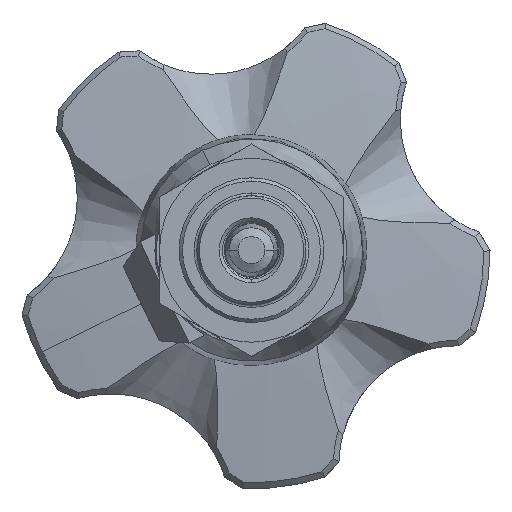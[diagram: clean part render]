
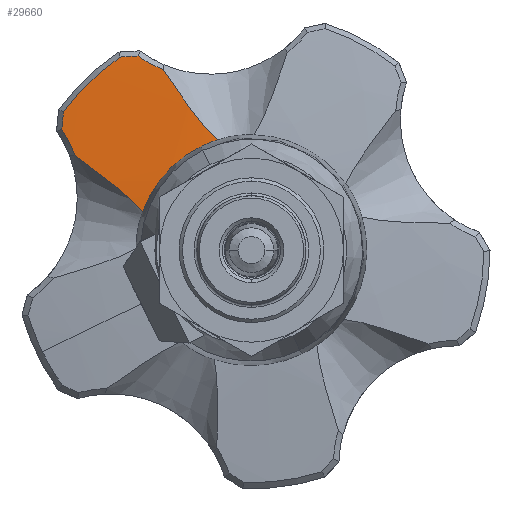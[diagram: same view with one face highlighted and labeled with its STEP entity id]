
A CAD part, front view. The second image highlights one B-rep face of the part: STEP entity #29660.
In plain terms, the highlighted spherical face has radius 215 mm.
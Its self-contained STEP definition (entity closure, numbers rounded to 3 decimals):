
#218 = CARTESIAN_POINT ( 'NONE',  ( -5., 4.667, 16.17 ) ) ;
#249 = VERTEX_POINT ( 'NONE', #28747 ) ;
#722 = CARTESIAN_POINT ( 'NONE',  ( -24.208, 5.742, 12.688 ) ) ;
#1540 = CARTESIAN_POINT ( 'NONE',  ( -7.391, 4.667, 15.227 ) ) ;
#2355 = DIRECTION ( 'NONE',  ( -0.437, 0., 0.9 ) ) ;
#2371 = CARTESIAN_POINT ( 'NONE',  ( -5.414, 4.705, 16.542 ) ) ;
#3241 = EDGE_CURVE ( 'NONE', #249, #32055, #5116, .T. ) ;
#3512 = CARTESIAN_POINT ( 'NONE',  ( -15.965, 4.667, 5.622 ) ) ;
#3637 = CARTESIAN_POINT ( 'NONE',  ( -25.956, 6.03, 13.97 ) ) ;
#3670 = AXIS2_PLACEMENT_3D ( 'NONE', #5832, #25776, #8714 ) ;
#4441 = ORIENTED_EDGE ( 'NONE', *, *, #7414, .T. ) ;
#4956 = ORIENTED_EDGE ( 'NONE', *, *, #14783, .T. ) ;
#5116 = B_SPLINE_CURVE_WITH_KNOTS ( 'NONE', 3,
 ( #3512, #20603, #9281, #29228, #12141, #32093, #15050, #35013, #17895, #722, #20736, #3637 ),
 .UNSPECIFIED., .F., .F.,
 ( 4, 2, 2, 2, 2, 4 ),
 ( 0.025, 0.027, 0.028, 0.032, 0.035, 0.038 ),
 .UNSPECIFIED. ) ;
#5721 = DIRECTION ( 'NONE',  ( 0.995, 0., -0.098 ) ) ;
#5832 = CARTESIAN_POINT ( 'NONE',  ( 0., 4.667, 0. ) ) ;
#6332 = CARTESIAN_POINT ( 'NONE',  ( -14.207, 6.169, 26.984 ) ) ;
#6874 = CARTESIAN_POINT ( 'NONE',  ( 0., 219., 0. ) ) ;
#6888 = DIRECTION ( 'NONE',  ( 0., -1., 0. ) ) ;
#7414 = EDGE_CURVE ( 'NONE', #28749, #23281, #33410, .T. ) ;
#7608 = CARTESIAN_POINT ( 'NONE',  ( -26.414, 6.169, 15.239 ) ) ;
#8560 = CIRCLE ( 'NONE', #15936, 212.975 ) ;
#8714 = DIRECTION ( 'NONE',  ( -0.437, 0., 0.9 ) ) ;
#9281 = CARTESIAN_POINT ( 'NONE',  ( -16.692, 4.745, 6.441 ) ) ;
#9400 = CARTESIAN_POINT ( 'NONE',  ( -27.573, 6.747, 20.336 ) ) ;
#9446 = CIRCLE ( 'NONE', #25744, 16.926 ) ;
#9855 = DIRECTION ( 'NONE',  ( 0.9, 0., 0.437 ) ) ;
#10373 = DIRECTION ( 'NONE',  ( 0.06, 0., -0.998 ) ) ;
#10525 = EDGE_LOOP ( 'NONE', ( #20916, #18018, #14106, #12885, #4441, #31628, #4956, #13992, #16638 ) ) ;
#10530 = CIRCLE ( 'NONE', #30462, 212.975 ) ;
#10916 = CARTESIAN_POINT ( 'NONE',  ( -10.507, 5.479, 22.905 ) ) ;
#12141 = CARTESIAN_POINT ( 'NONE',  ( -17.869, 4.877, 7.582 ) ) ;
#12885 = ORIENTED_EDGE ( 'NONE', *, *, #16666, .F. ) ;
#13595 = CIRCLE ( 'NONE', #3670, 16.926 ) ;
#13802 = CARTESIAN_POINT ( 'NONE',  ( -8.59, 5.128, 20.277 ) ) ;
#13992 = ORIENTED_EDGE ( 'NONE', *, *, #18853, .T. ) ;
#14106 = ORIENTED_EDGE ( 'NONE', *, *, #30078, .F. ) ;
#14783 = EDGE_CURVE ( 'NONE', #29997, #22351, #16154, .T. ) ;
#14837 = CARTESIAN_POINT ( 'NONE',  ( -16.646, 6.548, 28.495 ) ) ;
#15000 = VERTEX_POINT ( 'NONE', #218 ) ;
#15050 = CARTESIAN_POINT ( 'NONE',  ( -19.924, 5.127, 9.362 ) ) ;
#15936 = AXIS2_PLACEMENT_3D ( 'NONE', #27421, #10373, #30337 ) ;
#16102 = B_SPLINE_CURVE_WITH_KNOTS ( 'NONE', 3,
 ( #30747, #19406, #27975, #10916, #30869, #13802, #33785, #16677, #36659, #19523, #2371, #22407 ),
 .UNSPECIFIED., .F., .F.,
 ( 4, 2, 2, 2, 2, 4 ),
 ( 0.006, 0.009, 0.012, 0.015, 0.017, 0.019 ),
 .UNSPECIFIED. ) ;
#16154 = CIRCLE ( 'NONE', #28280, 34.261 ) ;
#16638 = ORIENTED_EDGE ( 'NONE', *, *, #21452, .T. ) ;
#16666 = EDGE_CURVE ( 'NONE', #28749, #15000, #16102, .T. ) ;
#16677 = CARTESIAN_POINT ( 'NONE',  ( -6.891, 4.878, 18.155 ) ) ;
#17895 = CARTESIAN_POINT ( 'NONE',  ( -22.478, 5.479, 11.381 ) ) ;
#18018 = ORIENTED_EDGE ( 'NONE', *, *, #32506, .F. ) ;
#18853 = EDGE_CURVE ( 'NONE', #22351, #31377, #10530, .T. ) ;
#18940 = CARTESIAN_POINT ( 'NONE',  ( -27.026, 6.339, 16.497 ) ) ;
#19406 = CARTESIAN_POINT ( 'NONE',  ( -12.354, 5.882, 25.578 ) ) ;
#19505 = DIRECTION ( 'NONE',  ( 0., -1., 0. ) ) ;
#19523 = CARTESIAN_POINT ( 'NONE',  ( -5.797, 4.746, 16.935 ) ) ;
#20197 = EDGE_CURVE ( 'NONE', #23281, #29997, #8560, .T. ) ;
#20492 = B_SPLINE_CURVE_WITH_KNOTS ( 'NONE', 3,
 ( #36062, #18940, #7608, #27504 ),
 .UNSPECIFIED., .F., .F.,
 ( 4, 4 ),
 ( 0., 1. ),
 .UNSPECIFIED. ) ;
#20603 = CARTESIAN_POINT ( 'NONE',  ( -16.314, 4.704, 6.042 ) ) ;
#20736 = CARTESIAN_POINT ( 'NONE',  ( -25.08, 5.882, 13.332 ) ) ;
#20916 = ORIENTED_EDGE ( 'NONE', *, *, #3241, .F. ) ;
#21452 = EDGE_CURVE ( 'NONE', #31377, #32055, #20492, .T. ) ;
#21824 = CARTESIAN_POINT ( 'NONE',  ( -12.956, 6.03, 26.476 ) ) ;
#22351 = VERTEX_POINT ( 'NONE', #9400 ) ;
#22407 = CARTESIAN_POINT ( 'NONE',  ( -5., 4.667, 16.17 ) ) ;
#22810 = CARTESIAN_POINT ( 'NONE',  ( -29.298, 219., 2.898 ) ) ;
#23281 = VERTEX_POINT ( 'NONE', #14837 ) ;
#23423 = CARTESIAN_POINT ( 'NONE',  ( -15.44, 6.339, 27.643 ) ) ;
#23961 = CARTESIAN_POINT ( 'NONE',  ( 0., 4.667, 0. ) ) ;
#25662 = DIRECTION ( 'NONE',  ( -0.098, 0., -0.995 ) ) ;
#25744 = AXIS2_PLACEMENT_3D ( 'NONE', #23961, #6888, #26813 ) ;
#25776 = DIRECTION ( 'NONE',  ( 0., -1., 0. ) ) ;
#26067 = VERTEX_POINT ( 'NONE', #1540 ) ;
#26262 = CARTESIAN_POINT ( 'NONE',  ( -12.956, 6.03, 26.476 ) ) ;
#26813 = DIRECTION ( 'NONE',  ( -0.437, 0., 0.9 ) ) ;
#26905 = DIRECTION ( 'NONE',  ( -0.437, 0., 0.9 ) ) ;
#27421 = CARTESIAN_POINT ( 'NONE',  ( -1.763, 219., 29.388 ) ) ;
#27504 = CARTESIAN_POINT ( 'NONE',  ( -25.956, 6.03, 13.97 ) ) ;
#27975 = CARTESIAN_POINT ( 'NONE',  ( -11.744, 5.742, 24.683 ) ) ;
#28280 = AXIS2_PLACEMENT_3D ( 'NONE', #36644, #19505, #2355 ) ;
#28747 = CARTESIAN_POINT ( 'NONE',  ( -15.965, 4.667, 5.622 ) ) ;
#28749 = VERTEX_POINT ( 'NONE', #21824 ) ;
#29137 = CARTESIAN_POINT ( 'NONE',  ( -16.646, 6.548, 28.495 ) ) ;
#29228 = CARTESIAN_POINT ( 'NONE',  ( -17.469, 4.832, 7.211 ) ) ;
#29660 = ADVANCED_FACE ( 'NONE', ( #31856 ), #36808, .T. ) ;
#29997 = VERTEX_POINT ( 'NONE', #31486 ) ;
#30078 = EDGE_CURVE ( 'NONE', #15000, #26067, #9446, .T. ) ;
#30313 = CARTESIAN_POINT ( 'NONE',  ( -27.83, 6.548, 17.735 ) ) ;
#30337 = DIRECTION ( 'NONE',  ( -0.998, 0., -0.06 ) ) ;
#30462 = AXIS2_PLACEMENT_3D ( 'NONE', #22810, #5721, #25662 ) ;
#30747 = CARTESIAN_POINT ( 'NONE',  ( -12.956, 6.03, 26.476 ) ) ;
#30869 = CARTESIAN_POINT ( 'NONE',  ( -9.878, 5.356, 22.022 ) ) ;
#31330 = CARTESIAN_POINT ( 'NONE',  ( -25.956, 6.03, 13.97 ) ) ;
#31377 = VERTEX_POINT ( 'NONE', #30313 ) ;
#31486 = CARTESIAN_POINT ( 'NONE',  ( -19.255, 6.747, 28.339 ) ) ;
#31628 = ORIENTED_EDGE ( 'NONE', *, *, #20197, .T. ) ;
#31856 = FACE_OUTER_BOUND ( 'NONE', #10525, .T. ) ;
#32055 = VERTEX_POINT ( 'NONE', #31330 ) ;
#32093 = CARTESIAN_POINT ( 'NONE',  ( -19.087, 5.022, 8.669 ) ) ;
#32506 = EDGE_CURVE ( 'NONE', #26067, #249, #13595, .T. ) ;
#33410 = B_SPLINE_CURVE_WITH_KNOTS ( 'NONE', 3,
 ( #26262, #6332, #23423, #29137 ),
 .UNSPECIFIED., .F., .F.,
 ( 4, 4 ),
 ( 0., 1. ),
 .UNSPECIFIED. ) ;
#33656 = AXIS2_PLACEMENT_3D ( 'NONE', #6874, #26905, #9855 ) ;
#33785 = CARTESIAN_POINT ( 'NONE',  ( -7.93, 5.022, 19.415 ) ) ;
#35013 = CARTESIAN_POINT ( 'NONE',  ( -21.619, 5.356, 10.718 ) ) ;
#36062 = CARTESIAN_POINT ( 'NONE',  ( -27.83, 6.548, 17.735 ) ) ;
#36644 = CARTESIAN_POINT ( 'NONE',  ( 0., 6.747, 0. ) ) ;
#36659 = CARTESIAN_POINT ( 'NONE',  ( -6.536, 4.832, 17.742 ) ) ;
#36808 = SPHERICAL_SURFACE ( 'NONE', #33656, 215. ) ;
